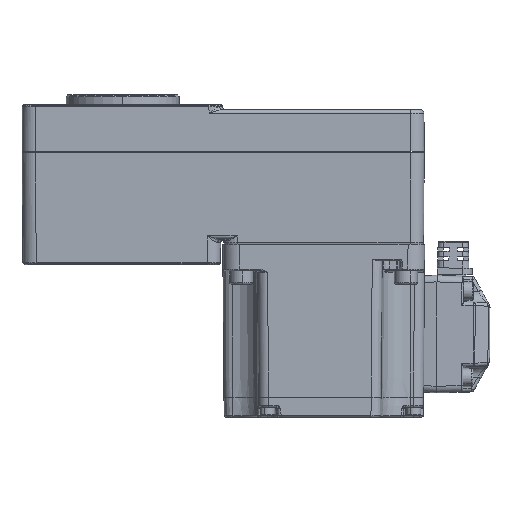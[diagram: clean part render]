
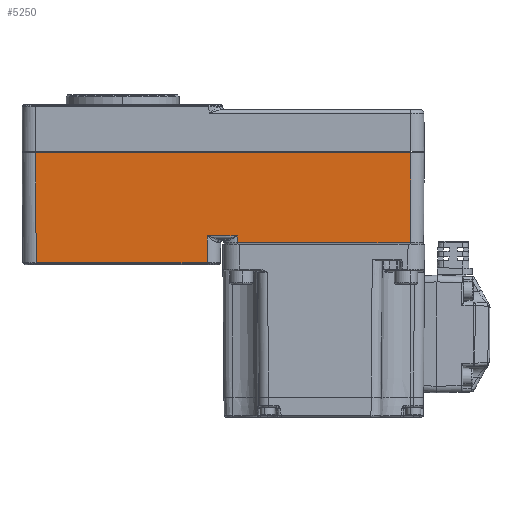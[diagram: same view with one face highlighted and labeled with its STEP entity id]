
A CAD part, left-side view. The second image highlights one B-rep face of the part: STEP entity #5250.
In plain terms, the highlighted planar face has unit normal (-1, 0, -0.009).
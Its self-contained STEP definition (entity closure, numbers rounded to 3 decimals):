
#2354 = ORIENTED_EDGE ( 'NONE', *, *, #95760, .T. ) ;
#3700 = VERTEX_POINT ( 'NONE', #82750 ) ;
#4160 = CARTESIAN_POINT ( 'NONE',  ( -30.244, -86.745, 23. ) ) ;
#4904 = AXIS2_PLACEMENT_3D ( 'NONE', #30284, #66032, #101792 ) ;
#5250 = ADVANCED_FACE ( 'NONE', ( #74854 ), #110612, .T. ) ;
#6562 = VECTOR ( 'NONE', #58652, 1000. ) ;
#8232 = VERTEX_POINT ( 'NONE', #59885 ) ;
#8569 = VECTOR ( 'NONE', #20911, 1000. ) ;
#9558 = VECTOR ( 'NONE', #50683, 1000. ) ;
#12340 = ORIENTED_EDGE ( 'NONE', *, *, #97712, .T. ) ;
#13171 = CARTESIAN_POINT ( 'NONE',  ( -30.244, 26.245, 23. ) ) ;
#13503 = DIRECTION ( 'NONE',  ( -0.009, -0.009, 1. ) ) ;
#14260 = VECTOR ( 'NONE', #69558, 1000. ) ;
#14980 = CARTESIAN_POINT ( 'NONE',  ( -29.998, -86.498, -5.227 ) ) ;
#16524 = DIRECTION ( 'NONE',  ( 0.009, -0.009, -1. ) ) ;
#18502 = VERTEX_POINT ( 'NONE', #52117 ) ;
#20402 = DIRECTION ( 'NONE',  ( 0., -1., 0. ) ) ;
#20911 = DIRECTION ( 'NONE',  ( 0.009, -0.009, -1. ) ) ;
#22913 = CARTESIAN_POINT ( 'NONE',  ( -30.244, -60.5, 23. ) ) ;
#23861 = VECTOR ( 'NONE', #13503, 1000. ) ;
#26082 = VERTEX_POINT ( 'NONE', #13171 ) ;
#30284 = CARTESIAN_POINT ( 'NONE',  ( -30., -60.5, -5. ) ) ;
#31296 = DIRECTION ( 'NONE',  ( 0., -1., 0. ) ) ;
#33805 = CARTESIAN_POINT ( 'NONE',  ( -30.026, -60.5, -2.009 ) ) ;
#35465 = ORIENTED_EDGE ( 'NONE', *, *, #77715, .T. ) ;
#36558 = ORIENTED_EDGE ( 'NONE', *, *, #78501, .T. ) ;
#38508 = VECTOR ( 'NONE', #16524, 1000. ) ;
#44789 = EDGE_CURVE ( 'NONE', #97179, #18502, #64920, .T. ) ;
#50683 = DIRECTION ( 'NONE',  ( -0.009, -0.009, 1. ) ) ;
#52117 = CARTESIAN_POINT ( 'NONE',  ( -30.009, -86.509, -4.009 ) ) ;
#56616 = EDGE_CURVE ( 'NONE', #107531, #59463, #75827, .T. ) ;
#58021 = LINE ( 'NONE', #93796, #23861 ) ;
#58652 = DIRECTION ( 'NONE',  ( 0., 1., 0. ) ) ;
#59463 = VERTEX_POINT ( 'NONE', #74446 ) ;
#59885 = CARTESIAN_POINT ( 'NONE',  ( -30.026, -34.474, -2.009 ) ) ;
#60612 = EDGE_CURVE ( 'NONE', #59463, #3700, #58021, .T. ) ;
#61017 = LINE ( 'NONE', #96790, #38508 ) ;
#61441 = CARTESIAN_POINT ( 'NONE',  ( -29.956, 25.956, -10.044 ) ) ;
#62348 = VECTOR ( 'NONE', #20402, 1000. ) ;
#64920 = LINE ( 'NONE', #100707, #62348 ) ;
#65238 = CARTESIAN_POINT ( 'NONE',  ( -30.009, -34.491, -4.009 ) ) ;
#65451 = LINE ( 'NONE', #101207, #8569 ) ;
#66032 = DIRECTION ( 'NONE',  ( -1., 0., -0.009 ) ) ;
#67733 = EDGE_LOOP ( 'NONE', ( #93956, #35465, #36558, #91794, #69034, #12340, #2354, #80878 ) ) ;
#69034 = ORIENTED_EDGE ( 'NONE', *, *, #60612, .T. ) ;
#69558 = DIRECTION ( 'NONE',  ( 0., -1., 0. ) ) ;
#74446 = CARTESIAN_POINT ( 'NONE',  ( -29.956, -25.439, -10.044 ) ) ;
#74854 = FACE_OUTER_BOUND ( 'NONE', #67733, .T. ) ;
#75544 = VECTOR ( 'NONE', #31296, 1000. ) ;
#75827 = LINE ( 'NONE', #111602, #75544 ) ;
#77715 = EDGE_CURVE ( 'NONE', #92807, #26082, #103209, .T. ) ;
#78501 = EDGE_CURVE ( 'NONE', #26082, #107531, #65451, .T. ) ;
#80878 = ORIENTED_EDGE ( 'NONE', *, *, #44789, .T. ) ;
#82384 = EDGE_CURVE ( 'NONE', #18502, #92807, #95261, .T. ) ;
#82750 = CARTESIAN_POINT ( 'NONE',  ( -30.026, -25.509, -2.009 ) ) ;
#91794 = ORIENTED_EDGE ( 'NONE', *, *, #56616, .T. ) ;
#92807 = VERTEX_POINT ( 'NONE', #4160 ) ;
#93796 = CARTESIAN_POINT ( 'NONE',  ( -30.003, -25.485, -4.694 ) ) ;
#93956 = ORIENTED_EDGE ( 'NONE', *, *, #82384, .T. ) ;
#95261 = LINE ( 'NONE', #14980, #9558 ) ;
#95760 = EDGE_CURVE ( 'NONE', #8232, #97179, #61017, .T. ) ;
#96790 = CARTESIAN_POINT ( 'NONE',  ( -29.998, -34.502, -5.227 ) ) ;
#97179 = VERTEX_POINT ( 'NONE', #65238 ) ;
#97712 = EDGE_CURVE ( 'NONE', #3700, #8232, #114159, .T. ) ;
#100707 = CARTESIAN_POINT ( 'NONE',  ( -30.009, -60.5, -4.009 ) ) ;
#101207 = CARTESIAN_POINT ( 'NONE',  ( -29.993, 25.994, -5.755 ) ) ;
#101792 = DIRECTION ( 'NONE',  ( -0.009, 0., 1. ) ) ;
#103209 = LINE ( 'NONE', #22913, #6562 ) ;
#107531 = VERTEX_POINT ( 'NONE', #61441 ) ;
#110612 = PLANE ( 'NONE',  #4904 ) ;
#111602 = CARTESIAN_POINT ( 'NONE',  ( -29.956, -25.437, -10.044 ) ) ;
#114159 = LINE ( 'NONE', #33805, #14260 ) ;
